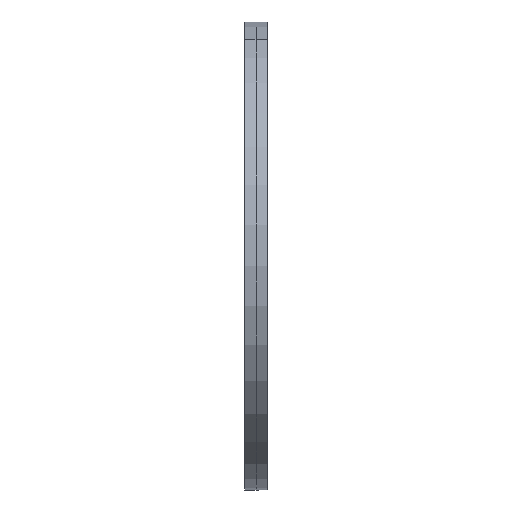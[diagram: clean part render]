
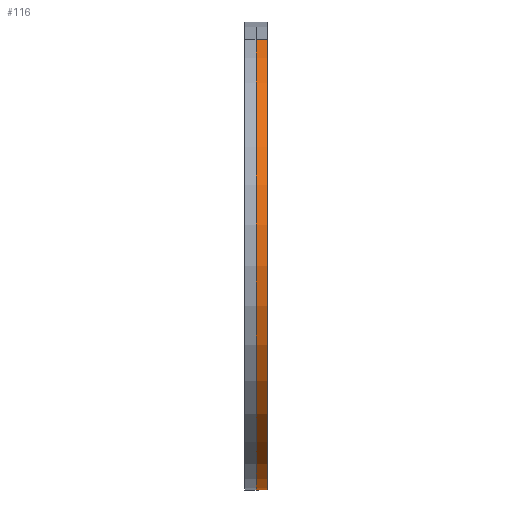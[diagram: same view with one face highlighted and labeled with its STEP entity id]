
A CAD part, top view. The second image highlights one B-rep face of the part: STEP entity #116.
In plain terms, the highlighted cylindrical face has radius 51.75 mm (diameter 103.5 mm), a partial arc.
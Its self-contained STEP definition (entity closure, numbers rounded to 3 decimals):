
#57=CYLINDRICAL_SURFACE('',#1438,51.75);
#116=ADVANCED_FACE('',(#192),#57,.T.);
#192=FACE_OUTER_BOUND('',#315,.F.);
#315=EDGE_LOOP('',(#442,#443,#444,#445));
#442=ORIENTED_EDGE('',*,*,#955,.T.);
#443=ORIENTED_EDGE('',*,*,#952,.T.);
#444=ORIENTED_EDGE('',*,*,#956,.F.);
#445=ORIENTED_EDGE('',*,*,#957,.T.);
#790=LINE('',#2123,#850);
#791=LINE('',#2124,#851);
#850=VECTOR('',#1605,2.5);
#851=VECTOR('',#1606,2.5);
#952=EDGE_CURVE('',#1275,#1274,#1128,.T.);
#955=EDGE_CURVE('',#1273,#1275,#790,.T.);
#956=EDGE_CURVE('',#1272,#1274,#791,.T.);
#957=EDGE_CURVE('',#1272,#1273,#1131,.T.);
#1128=CIRCLE('',#1362,51.75);
#1131=CIRCLE('',#1365,51.75);
#1272=VERTEX_POINT('',#2032);
#1273=VERTEX_POINT('',#2033);
#1274=VERTEX_POINT('',#2034);
#1275=VERTEX_POINT('',#2035);
#1362=AXIS2_PLACEMENT_3D('',#2120,#1599,#1600);
#1365=AXIS2_PLACEMENT_3D('',#2125,#1607,#1608);
#1438=AXIS2_PLACEMENT_3D('',#2256,#1811,#1812);
#1599=DIRECTION('',(-1.,0.,0.));
#1600=DIRECTION('',(0.,-0.924,-0.383));
#1605=DIRECTION('',(-1.,0.,0.));
#1606=DIRECTION('',(-1.,0.,0.));
#1607=DIRECTION('',(1.,0.,0.));
#1608=DIRECTION('',(0.,0.924,0.383));
#1811=DIRECTION('',(1.,0.,0.));
#1812=DIRECTION('',(0.,0.924,0.383));
#2032=CARTESIAN_POINT('',(-47.5,172.611,-151.196));
#2033=CARTESIAN_POINT('',(-47.5,76.989,-190.804));
#2034=CARTESIAN_POINT('',(-50.,172.611,-151.196));
#2035=CARTESIAN_POINT('',(-50.,76.989,-190.804));
#2120=CARTESIAN_POINT('',(-50.,124.8,-171.));
#2123=CARTESIAN_POINT('',(-47.5,76.989,-190.804));
#2124=CARTESIAN_POINT('',(-47.5,172.611,-151.196));
#2125=CARTESIAN_POINT('',(-47.5,124.8,-171.));
#2256=CARTESIAN_POINT('',(-47.5,124.8,-171.));
